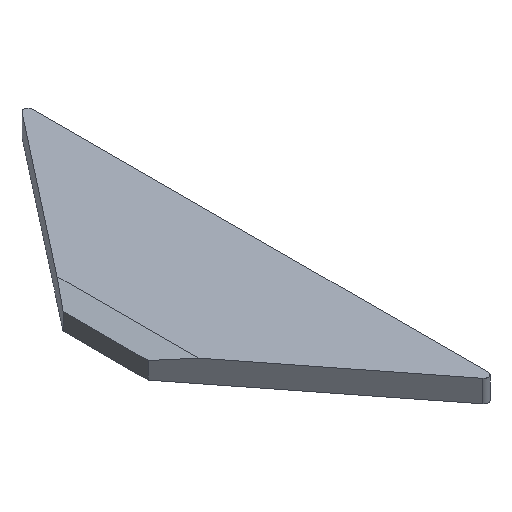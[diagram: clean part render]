
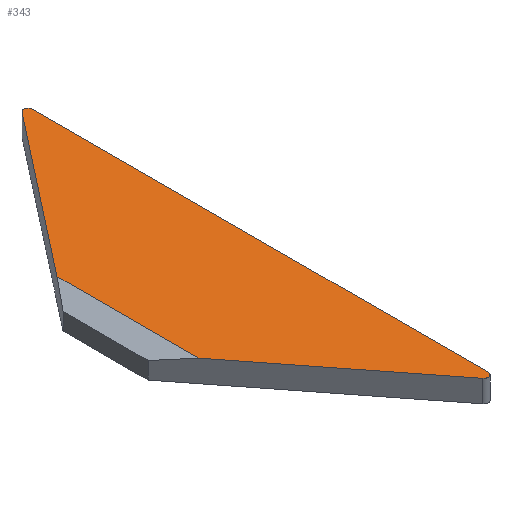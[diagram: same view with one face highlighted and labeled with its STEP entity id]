
A CAD part, isometric view. The second image highlights one B-rep face of the part: STEP entity #343.
In plain terms, the highlighted planar face has unit normal (0, 0, 1).
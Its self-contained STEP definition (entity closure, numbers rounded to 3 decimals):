
#32 = PLANE('',#33);
#33 = AXIS2_PLACEMENT_3D('',#34,#35,#36);
#34 = CARTESIAN_POINT('',(-19.,0.,-145.));
#35 = DIRECTION('',(0.788,0.616,-0.));
#36 = DIRECTION('',(0.616,-0.788,0.));
#83 = VERTEX_POINT('',#84);
#84 = CARTESIAN_POINT('',(-14.,-6.4,-143.));
#97 = PLANE('',#98);
#98 = AXIS2_PLACEMENT_3D('',#99,#100,#101);
#99 = CARTESIAN_POINT('',(-20.,0.,-144.4));
#100 = DIRECTION('',(-0.227,0.,0.974));
#101 = DIRECTION('',(0.974,0.,0.227));
#108 = EDGE_CURVE('',#83,#109,#111,.T.);
#109 = VERTEX_POINT('',#110);
#110 = CARTESIAN_POINT('',(-2.715,-20.844,-143.));
#111 = SURFACE_CURVE('',#112,(#116,#123),.PCURVE_S1.);
#112 = LINE('',#113,#114);
#113 = CARTESIAN_POINT('',(-19.,0.,-143.));
#114 = VECTOR('',#115,1.);
#115 = DIRECTION('',(0.616,-0.788,0.));
#116 = PCURVE('',#32,#117);
#117 = DEFINITIONAL_REPRESENTATION('',(#118),#122);
#118 = LINE('',#119,#120);
#119 = CARTESIAN_POINT('',(0.,-2.));
#120 = VECTOR('',#121,1.);
#121 = DIRECTION('',(1.,0.));
#122 = ( GEOMETRIC_REPRESENTATION_CONTEXT(2) 
PARAMETRIC_REPRESENTATION_CONTEXT() REPRESENTATION_CONTEXT('2D SPACE',''
  ) );
#123 = PCURVE('',#124,#129);
#124 = PLANE('',#125);
#125 = AXIS2_PLACEMENT_3D('',#126,#127,#128);
#126 = CARTESIAN_POINT('',(-6.754,0.,-143.));
#127 = DIRECTION('',(0.,0.,1.));
#128 = DIRECTION('',(1.,0.,-0.));
#129 = DEFINITIONAL_REPRESENTATION('',(#130),#134);
#130 = LINE('',#131,#132);
#131 = CARTESIAN_POINT('',(-12.246,0.));
#132 = VECTOR('',#133,1.);
#133 = DIRECTION('',(0.616,-0.788));
#134 = ( GEOMETRIC_REPRESENTATION_CONTEXT(2) 
PARAMETRIC_REPRESENTATION_CONTEXT() REPRESENTATION_CONTEXT('2D SPACE',''
  ) );
#150 = CYLINDRICAL_SURFACE('',#151,0.4);
#151 = AXIS2_PLACEMENT_3D('',#152,#153,#154);
#152 = CARTESIAN_POINT('',(-2.4,-20.597,-145.));
#153 = DIRECTION('',(0.,0.,1.));
#154 = DIRECTION('',(-0.788,-0.616,0.));
#227 = PLANE('',#228);
#228 = AXIS2_PLACEMENT_3D('',#229,#230,#231);
#229 = CARTESIAN_POINT('',(-2.,-21.759,-145.));
#230 = DIRECTION('',(-1.,0.,0.));
#231 = DIRECTION('',(0.,1.,0.));
#256 = CYLINDRICAL_SURFACE('',#257,0.4);
#257 = AXIS2_PLACEMENT_3D('',#258,#259,#260);
#258 = CARTESIAN_POINT('',(-2.4,20.597,-145.));
#259 = DIRECTION('',(0.,0.,1.));
#260 = DIRECTION('',(1.,0.,-0.));
#282 = PLANE('',#283);
#283 = AXIS2_PLACEMENT_3D('',#284,#285,#286);
#284 = CARTESIAN_POINT('',(-2.,21.759,-145.));
#285 = DIRECTION('',(0.788,-0.616,0.));
#286 = DIRECTION('',(-0.616,-0.788,0.));
#299 = VERTEX_POINT('',#300);
#300 = CARTESIAN_POINT('',(-2.,-20.597,-143.));
#321 = EDGE_CURVE('',#109,#299,#322,.T.);
#322 = SURFACE_CURVE('',#323,(#328,#335),.PCURVE_S1.);
#323 = CIRCLE('',#324,0.4);
#324 = AXIS2_PLACEMENT_3D('',#325,#326,#327);
#325 = CARTESIAN_POINT('',(-2.4,-20.597,-143.));
#326 = DIRECTION('',(0.,0.,1.));
#327 = DIRECTION('',(0.,-1.,0.));
#328 = PCURVE('',#150,#329);
#329 = DEFINITIONAL_REPRESENTATION('',(#330),#334);
#330 = LINE('',#331,#332);
#331 = CARTESIAN_POINT('',(-5.376,2.));
#332 = VECTOR('',#333,1.);
#333 = DIRECTION('',(1.,0.));
#334 = ( GEOMETRIC_REPRESENTATION_CONTEXT(2) 
PARAMETRIC_REPRESENTATION_CONTEXT() REPRESENTATION_CONTEXT('2D SPACE',''
  ) );
#335 = PCURVE('',#124,#336);
#336 = DEFINITIONAL_REPRESENTATION('',(#337),#341);
#337 = CIRCLE('',#338,0.4);
#338 = AXIS2_PLACEMENT_2D('',#339,#340);
#339 = CARTESIAN_POINT('',(4.354,-20.597));
#340 = DIRECTION('',(0.,-1.));
#341 = ( GEOMETRIC_REPRESENTATION_CONTEXT(2) 
PARAMETRIC_REPRESENTATION_CONTEXT() REPRESENTATION_CONTEXT('2D SPACE',''
  ) );
#343 = ADVANCED_FACE('',(#344),#124,.T.);
#344 = FACE_BOUND('',#345,.T.);
#345 = EDGE_LOOP('',(#346,#369,#370,#371,#394,#418));
#346 = ORIENTED_EDGE('',*,*,#347,.T.);
#347 = EDGE_CURVE('',#348,#83,#350,.T.);
#348 = VERTEX_POINT('',#349);
#349 = CARTESIAN_POINT('',(-14.,6.4,-143.));
#350 = SURFACE_CURVE('',#351,(#355,#362),.PCURVE_S1.);
#351 = LINE('',#352,#353);
#352 = CARTESIAN_POINT('',(-14.,60.,-143.));
#353 = VECTOR('',#354,1.);
#354 = DIRECTION('',(0.,-1.,0.));
#355 = PCURVE('',#124,#356);
#356 = DEFINITIONAL_REPRESENTATION('',(#357),#361);
#357 = LINE('',#358,#359);
#358 = CARTESIAN_POINT('',(-7.246,60.));
#359 = VECTOR('',#360,1.);
#360 = DIRECTION('',(0.,-1.));
#361 = ( GEOMETRIC_REPRESENTATION_CONTEXT(2) 
PARAMETRIC_REPRESENTATION_CONTEXT() REPRESENTATION_CONTEXT('2D SPACE',''
  ) );
#362 = PCURVE('',#97,#363);
#363 = DEFINITIONAL_REPRESENTATION('',(#364),#368);
#364 = LINE('',#365,#366);
#365 = CARTESIAN_POINT('',(6.161,60.));
#366 = VECTOR('',#367,1.);
#367 = DIRECTION('',(0.,-1.));
#368 = ( GEOMETRIC_REPRESENTATION_CONTEXT(2) 
PARAMETRIC_REPRESENTATION_CONTEXT() REPRESENTATION_CONTEXT('2D SPACE',''
  ) );
#369 = ORIENTED_EDGE('',*,*,#108,.T.);
#370 = ORIENTED_EDGE('',*,*,#321,.T.);
#371 = ORIENTED_EDGE('',*,*,#372,.T.);
#372 = EDGE_CURVE('',#299,#373,#375,.T.);
#373 = VERTEX_POINT('',#374);
#374 = CARTESIAN_POINT('',(-2.,20.597,-143.));
#375 = SURFACE_CURVE('',#376,(#380,#387),.PCURVE_S1.);
#376 = LINE('',#377,#378);
#377 = CARTESIAN_POINT('',(-2.,-21.759,-143.));
#378 = VECTOR('',#379,1.);
#379 = DIRECTION('',(0.,1.,0.));
#380 = PCURVE('',#124,#381);
#381 = DEFINITIONAL_REPRESENTATION('',(#382),#386);
#382 = LINE('',#383,#384);
#383 = CARTESIAN_POINT('',(4.754,-21.759));
#384 = VECTOR('',#385,1.);
#385 = DIRECTION('',(0.,1.));
#386 = ( GEOMETRIC_REPRESENTATION_CONTEXT(2) 
PARAMETRIC_REPRESENTATION_CONTEXT() REPRESENTATION_CONTEXT('2D SPACE',''
  ) );
#387 = PCURVE('',#227,#388);
#388 = DEFINITIONAL_REPRESENTATION('',(#389),#393);
#389 = LINE('',#390,#391);
#390 = CARTESIAN_POINT('',(0.,-2.));
#391 = VECTOR('',#392,1.);
#392 = DIRECTION('',(1.,0.));
#393 = ( GEOMETRIC_REPRESENTATION_CONTEXT(2) 
PARAMETRIC_REPRESENTATION_CONTEXT() REPRESENTATION_CONTEXT('2D SPACE',''
  ) );
#394 = ORIENTED_EDGE('',*,*,#395,.T.);
#395 = EDGE_CURVE('',#373,#396,#398,.T.);
#396 = VERTEX_POINT('',#397);
#397 = CARTESIAN_POINT('',(-2.715,20.844,-143.));
#398 = SURFACE_CURVE('',#399,(#404,#411),.PCURVE_S1.);
#399 = CIRCLE('',#400,0.4);
#400 = AXIS2_PLACEMENT_3D('',#401,#402,#403);
#401 = CARTESIAN_POINT('',(-2.4,20.597,-143.));
#402 = DIRECTION('',(0.,0.,1.));
#403 = DIRECTION('',(0.,-1.,0.));
#404 = PCURVE('',#124,#405);
#405 = DEFINITIONAL_REPRESENTATION('',(#406),#410);
#406 = CIRCLE('',#407,0.4);
#407 = AXIS2_PLACEMENT_2D('',#408,#409);
#408 = CARTESIAN_POINT('',(4.354,20.597));
#409 = DIRECTION('',(0.,-1.));
#410 = ( GEOMETRIC_REPRESENTATION_CONTEXT(2) 
PARAMETRIC_REPRESENTATION_CONTEXT() REPRESENTATION_CONTEXT('2D SPACE',''
  ) );
#411 = PCURVE('',#256,#412);
#412 = DEFINITIONAL_REPRESENTATION('',(#413),#417);
#413 = LINE('',#414,#415);
#414 = CARTESIAN_POINT('',(-1.571,2.));
#415 = VECTOR('',#416,1.);
#416 = DIRECTION('',(1.,0.));
#417 = ( GEOMETRIC_REPRESENTATION_CONTEXT(2) 
PARAMETRIC_REPRESENTATION_CONTEXT() REPRESENTATION_CONTEXT('2D SPACE',''
  ) );
#418 = ORIENTED_EDGE('',*,*,#419,.T.);
#419 = EDGE_CURVE('',#396,#348,#420,.T.);
#420 = SURFACE_CURVE('',#421,(#425,#432),.PCURVE_S1.);
#421 = LINE('',#422,#423);
#422 = CARTESIAN_POINT('',(-2.,21.759,-143.));
#423 = VECTOR('',#424,1.);
#424 = DIRECTION('',(-0.616,-0.788,0.));
#425 = PCURVE('',#124,#426);
#426 = DEFINITIONAL_REPRESENTATION('',(#427),#431);
#427 = LINE('',#428,#429);
#428 = CARTESIAN_POINT('',(4.754,21.759));
#429 = VECTOR('',#430,1.);
#430 = DIRECTION('',(-0.616,-0.788));
#431 = ( GEOMETRIC_REPRESENTATION_CONTEXT(2) 
PARAMETRIC_REPRESENTATION_CONTEXT() REPRESENTATION_CONTEXT('2D SPACE',''
  ) );
#432 = PCURVE('',#282,#433);
#433 = DEFINITIONAL_REPRESENTATION('',(#434),#438);
#434 = LINE('',#435,#436);
#435 = CARTESIAN_POINT('',(0.,-2.));
#436 = VECTOR('',#437,1.);
#437 = DIRECTION('',(1.,0.));
#438 = ( GEOMETRIC_REPRESENTATION_CONTEXT(2) 
PARAMETRIC_REPRESENTATION_CONTEXT() REPRESENTATION_CONTEXT('2D SPACE',''
  ) );
